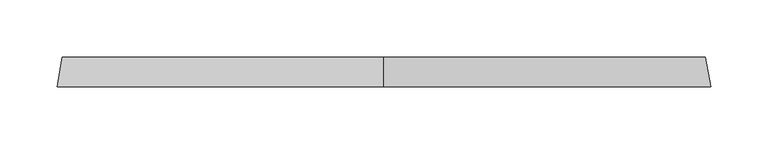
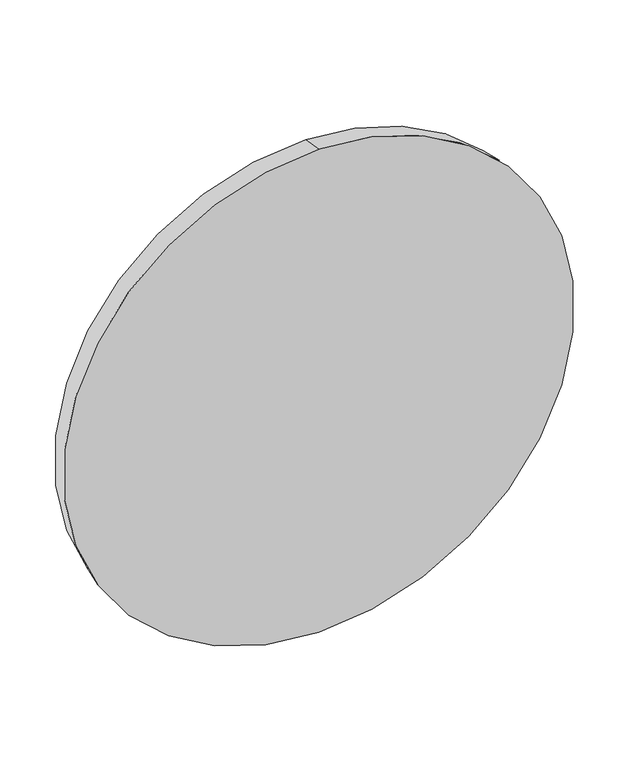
"""IFC4 building model written with IfcOpenShell, lengths in millimetres: proxy geometry, GRADIENT^TABLE 2_RADIUS BASE-BASE BOTTOM."""

from ifc_helpers import new_model, si_unit, frame, origin, place, context, project, spatial, polyline, circle_curve, source, transform, mapped, element, save
from ifc_brep_helpers import plane_surface, revolved_surface, advanced_brep


def generic_models_906772f5(model_context):
    return source(origin(), model_context, "Body", "AdvancedBrep", [
        advanced_brep(
        [(0.0, 0.0, 285.456123), (0.0, 25.4, 280.9774177), (0.0, 25.4, -280.9774177), (0.0, 0.0, -285.456123)],
        [
            (0, 1),
            (1, 2, circle_curve(frame((0.0, 25.4, 0.0), z_axis=(0.0, -1.0, 0.0), x_axis=(0.0, 0.0, -1.0)), 280.9774177)),
            (2, 3),
            (3, 0, circle_curve(frame((0.0, 0.0, 0.0), z_axis=(0.0, 1.0, 0.0), x_axis=(0.0, 0.0, -1.0)), 285.456123)),
            (3, 0, circle_curve(frame((0.0, 0.0, 0.0), z_axis=(0.0, -1.0, 0.0), x_axis=(0.0, 0.0, 1.0)), 285.456123)),
            (1, 2, circle_curve(frame((0.0, 25.4, 0.0), z_axis=(0.0, 1.0, 0.0), x_axis=(0.0, 0.0, 1.0)), 280.9774177)),
        ],
        [
            revolved_surface(polyline([(0.0, 25.40000000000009, 280.97741769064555), (0.0, 0.0, 285.456123)]), (0.0, 1618.9021209, 0.0), (0.0, -1.0, 0.0)),
            plane_surface(frame((0.0, 0.0, 285.456123), z_axis=(0.0, -1.0, 0.0), x_axis=(0.0, 0.0, -1.0))),
            plane_surface(frame((0.0, 25.4, 127.0), z_axis=(0.0, 1.0, 0.0), x_axis=(0.0, 0.0, 1.0))),
        ],
        [
            (0, [[1, 2, 3, 4]]),
            (1, [[5, -4]]),
            (2, [[6, -2]]),
            (0, [[-1, -5, -3, -6]]),
        ],
    ),
    ])


if __name__ == "__main__":
    model = new_model("IFC4")
    model_context = context("Model", 3, world=origin())
    ifc_project = project(units=[si_unit("LENGTHUNIT", "METRE", prefix="MILLI")], contexts=[model_context])
    site = spatial("IfcSite", under=ifc_project)
    building = spatial("IfcBuilding", under=site)
    placement = place(None, origin())
    generic_models_shape = generic_models_906772f5(model_context)
    element("IfcBuildingElementProxy", 1, Name="GRADIENT^TABLE 2_RADIUS BASE-BASE BOTTOM", ObjectType="GRADIENT^TABLE 2_RADIUS BASE-BASE BOTTOM", at=placement, inside=building, context=model_context, shape_type="MappedRepresentation", body=[
        mapped(generic_models_shape, transform((0.0, 0.0, 0.0), x_axis=(1.0, 0.0, 0.0), y_axis=(0.0, 1.0, 0.0), z_axis=(0.0, 0.0, 1.0))),
    ])
    save(model, "model.ifc")
